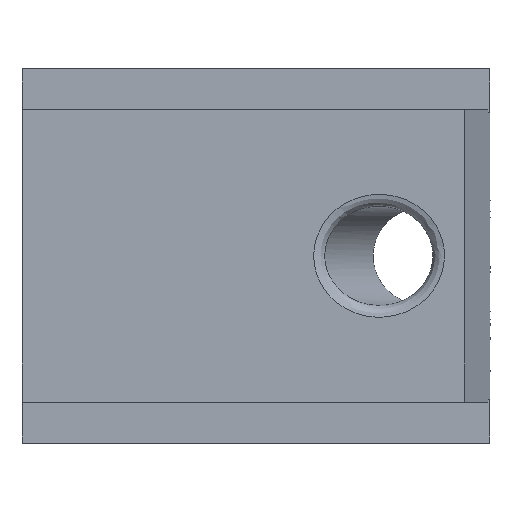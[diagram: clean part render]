
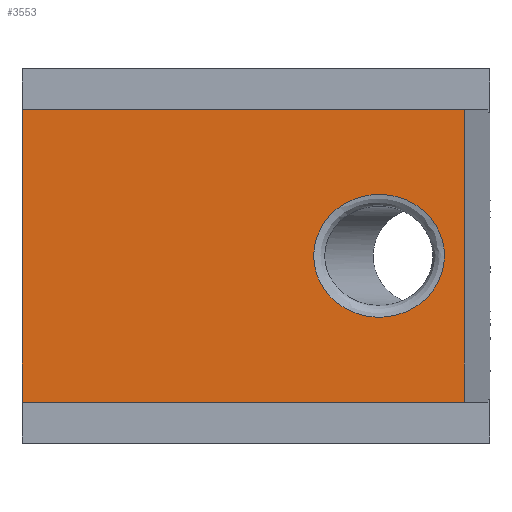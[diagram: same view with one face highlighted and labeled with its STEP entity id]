
A CAD part, top view. The second image highlights one B-rep face of the part: STEP entity #3553.
In plain terms, the highlighted planar face has unit normal (0, 0, 1).
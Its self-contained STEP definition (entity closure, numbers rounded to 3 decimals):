
#48 = VECTOR ( 'NONE', #8147, 1000. ) ;
#251 = EDGE_CURVE ( 'NONE', #10300, #566, #2326, .T. ) ;
#289 = DIRECTION ( 'NONE',  ( 1., 0., 0. ) ) ;
#424 = CARTESIAN_POINT ( 'NONE',  ( 36.111, 0., 12. ) ) ;
#566 = VERTEX_POINT ( 'NONE', #4092 ) ;
#686 = CARTESIAN_POINT ( 'NONE',  ( 0., 12.5, 12. ) ) ;
#815 = EDGE_CURVE ( 'NONE', #3067, #3067, #1586, .T. ) ;
#1279 = FACE_OUTER_BOUND ( 'NONE', #9330, .T. ) ;
#1288 = EDGE_CURVE ( 'NONE', #8364, #10300, #4950, .T. ) ;
#1586 =( BOUNDED_CURVE ( )  B_SPLINE_CURVE ( 3, ( #10102, #10054, #5180, #10005, #9369, #3670, #424 ),
 .UNSPECIFIED., .T., .F. ) 
 B_SPLINE_CURVE_WITH_KNOTS ( ( 4, 3, 4 ),
 ( 0., 3.142, 6.283 ),
 .UNSPECIFIED. ) 
 CURVE ( )  GEOMETRIC_REPRESENTATION_ITEM ( )  RATIONAL_B_SPLINE_CURVE ( ( 1., 0.333, 0.333, 1., 0.333, 0.333, 1. ) ) 
 REPRESENTATION_ITEM ( '' )  );
#1769 = CARTESIAN_POINT ( 'NONE',  ( 0., 12.5, 12. ) ) ;
#2326 = LINE ( 'NONE', #3848, #2823 ) ;
#2455 = ORIENTED_EDGE ( 'NONE', *, *, #1288, .T. ) ;
#2712 = ORIENTED_EDGE ( 'NONE', *, *, #815, .T. ) ;
#2823 = VECTOR ( 'NONE', #5450, 1000. ) ;
#3067 = VERTEX_POINT ( 'NONE', #7981 ) ;
#3258 = CARTESIAN_POINT ( 'NONE',  ( 0., 12.5, 12. ) ) ;
#3354 = EDGE_CURVE ( 'NONE', #8364, #7638, #3389, .T. ) ;
#3389 = LINE ( 'NONE', #1769, #4624 ) ;
#3460 = AXIS2_PLACEMENT_3D ( 'NONE', #686, #3884, #10320 ) ;
#3553 = ADVANCED_FACE ( 'NONE', ( #8454, #1279 ), #7860, .F. ) ;
#3670 = CARTESIAN_POINT ( 'NONE',  ( 36.111, 10.5, 12. ) ) ;
#3848 = CARTESIAN_POINT ( 'NONE',  ( 0., -12.5, 12. ) ) ;
#3884 = DIRECTION ( 'NONE',  ( 0., 0., -1. ) ) ;
#4092 = CARTESIAN_POINT ( 'NONE',  ( 37.816, -12.5, 12. ) ) ;
#4573 = CARTESIAN_POINT ( 'NONE',  ( 0., -12.5, 12. ) ) ;
#4624 = VECTOR ( 'NONE', #289, 1000. ) ;
#4848 = CARTESIAN_POINT ( 'NONE',  ( 0., 12.5, 12. ) ) ;
#4950 = LINE ( 'NONE', #4848, #48 ) ;
#5180 = CARTESIAN_POINT ( 'NONE',  ( 24.937, -10.5, 12. ) ) ;
#5311 = EDGE_LOOP ( 'NONE', ( #2712 ) ) ;
#5373 = CARTESIAN_POINT ( 'NONE',  ( 37.816, 12.5, 12. ) ) ;
#5450 = DIRECTION ( 'NONE',  ( 1., 0., 0. ) ) ;
#5530 = EDGE_CURVE ( 'NONE', #7638, #566, #7287, .T. ) ;
#7287 = LINE ( 'NONE', #8328, #8822 ) ;
#7638 = VERTEX_POINT ( 'NONE', #5373 ) ;
#7860 = PLANE ( 'NONE',  #3460 ) ;
#7981 = CARTESIAN_POINT ( 'NONE',  ( 36.111, 0., 12. ) ) ;
#8147 = DIRECTION ( 'NONE',  ( 0., -1., 0. ) ) ;
#8260 = ORIENTED_EDGE ( 'NONE', *, *, #251, .T. ) ;
#8328 = CARTESIAN_POINT ( 'NONE',  ( 37.816, 12.5, 12. ) ) ;
#8364 = VERTEX_POINT ( 'NONE', #3258 ) ;
#8454 = FACE_BOUND ( 'NONE', #5311, .T. ) ;
#8822 = VECTOR ( 'NONE', #10048, 1000. ) ;
#9330 = EDGE_LOOP ( 'NONE', ( #8260, #10077, #9559, #2455 ) ) ;
#9369 = CARTESIAN_POINT ( 'NONE',  ( 24.937, 10.5, 12. ) ) ;
#9559 = ORIENTED_EDGE ( 'NONE', *, *, #3354, .F. ) ;
#10005 = CARTESIAN_POINT ( 'NONE',  ( 24.937, 0., 12. ) ) ;
#10048 = DIRECTION ( 'NONE',  ( 0., -1., 0. ) ) ;
#10054 = CARTESIAN_POINT ( 'NONE',  ( 36.111, -10.5, 12. ) ) ;
#10077 = ORIENTED_EDGE ( 'NONE', *, *, #5530, .F. ) ;
#10102 = CARTESIAN_POINT ( 'NONE',  ( 36.111, 0., 12. ) ) ;
#10300 = VERTEX_POINT ( 'NONE', #4573 ) ;
#10320 = DIRECTION ( 'NONE',  ( -1., 0., 0. ) ) ;
